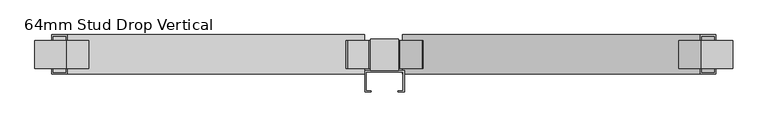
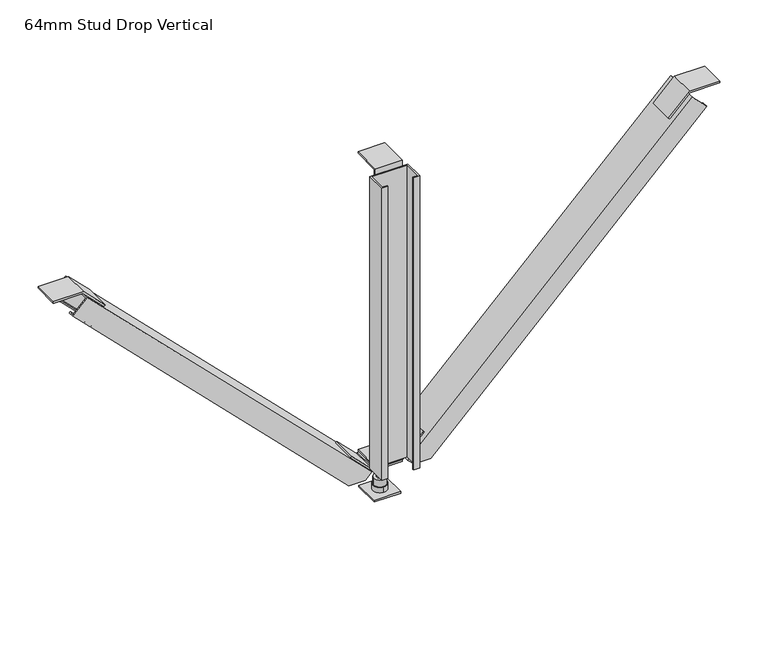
"""IFC4 building model written with IfcOpenShell, lengths in millimetres: beam geometry, Vertibrace 3-way Brace : 64mm Stud Drop Vertical."""

from ifc_helpers import new_model, si_unit, frame, origin, origin_with_axes, place, context, project, spatial, polyline, circle_curve, outline, extrude, faceted_brep, source, transform, mapped, element, save
from ifc_brep_helpers import plane_surface, cylinder_surface, advanced_brep


def beam_64mm_stud_drop_vertical_f6c59acf(model_context):
    return source(origin(), model_context, "Body", "SolidModel", [
        extrude(outline(polyline([(-23.235654, 597.0013294), (-23.235654, 548.7734408), (-26.2343246, 548.7734408), (-26.2343246, 600.0), (24.9922346, 600.0), (24.9922346, 597.0013294), (-23.235654, 597.0013294)])), frame((-22.5, 0.0, 0.0), z_axis=(1.0, 0.0, 0.0), x_axis=(0.0, 1.0, 0.0)), (0.0, 0.0, 1.0), 45.0),
        extrude(outline(polyline([(547.0013294, 513.8434194), (547.0013294, 563.8278886), (550.0, 563.8278886), (550.0, 512.6013294), (513.7773526, 476.378682), (511.6569723, 478.4990623), (547.0013294, 513.8434194)])), frame((0.0, -22.5, 0.0), z_axis=(0.0, 1.0, 0.0), x_axis=(0.0, 0.0, 1.0)), (0.0, 0.0, 1.0), 45.0),
        extrude(outline(polyline([(547.0013294, -516.535654), (511.6569723, -481.1912969), (513.7773526, -479.0709166), (550.0, -515.293564), (550.0, -566.5201232), (547.0013294, -566.5201232), (547.0013294, -516.535654)])), frame((0.0, -22.5, 0.0), z_axis=(0.0, 1.0, 0.0), x_axis=(0.0, 0.0, 1.0)), (0.0, 0.0, 1.0), 45.0),
        extrude(outline(polyline([(-23.235654, 65.6986706), (24.9922346, 65.6986706), (24.9922346, 62.7), (-26.2343246, 62.7), (-26.2343246, 113.9265592), (-23.235654, 113.9265592), (-23.235654, 65.6986706)])), frame((-22.5, 0.0, 0.0), z_axis=(1.0, 0.0, 0.0), x_axis=(0.0, 1.0, 0.0)), (0.0, 0.0, 1.0), 45.0),
        extrude(outline(polyline([(62.6986706, 24.9922346), (62.6986706, -24.9922346), (59.7, -24.9922346), (59.7, 26.2343246), (95.9226474, 62.456972), (98.0430277, 60.3365917), (62.6986706, 24.9922346)])), frame((0.0, -22.5, 0.0), z_axis=(0.0, 1.0, 0.0), x_axis=(0.0, 0.0, 1.0)), (0.0, 0.0, 1.0), 45.0),
        extrude(outline(polyline([(59.6986706, -24.9922346), (95.0430277, -60.3365917), (92.9226474, -62.456972), (56.7, -26.2343246), (56.7, 24.9922346), (59.6986706, 24.9922346), (59.6986706, -24.9922346)])), frame((0.0, -22.5, 0.0), z_axis=(0.0, 1.0, 0.0), x_axis=(0.0, 0.0, 1.0)), (0.0, 0.0, 1.0), 45.0),
        extrude(outline(polyline([(22.5, 22.5), (22.5, -22.5), (-22.5, -22.5), (-22.5, 22.5), (22.5, 22.5)])), origin_with_axes(), (0.0, 0.0, 1.0), 3.0),
        advanced_brep(
        [(-5.0, 0.0, -10.0), (5.0, 0.0, -10.0), (-5.0, 0.0, 80.0), (5.0, 0.0, 80.0), (5.0, 0.0, 3.0), (-5.0, 0.0, 3.0), (-5.0, 0.0, 77.4), (5.0, 0.0, 77.4), (-5.0, 0.0, 25.0), (5.0, 0.0, 25.0), (5.0, 0.0, 50.0), (-5.0, 0.0, 50.0), (5.0, 0.0, 65.7), (-5.0, 0.0, 65.7), (-5.0, 0.0, 56.7), (5.0, 0.0, 56.7), (-10.5, 0.0, 25.0), (10.5, 0.0, 25.0), (-10.5, 0.0, 13.0), (10.5, 0.0, 13.0), (0.0, -12.0, 13.0), (0.0, 12.0, 13.0), (3.75, 6.4951905, 77.4), (-3.75, 6.4951905, 77.4), (-7.5, 0.0, 77.4), (-3.75, -6.4951905, 77.4), (3.75, -6.4951905, 77.4), (7.5, 0.0, 77.4), (3.75, 6.4951905, 65.7), (7.5, 0.0, 65.7), (3.75, -6.4951905, 65.7), (-3.75, -6.4951905, 65.7), (-7.5, 0.0, 65.7), (-3.75, 6.4951905, 65.7), (-10.9696551, 0.0, 56.7), (-5.4848276, -9.5, 56.7), (5.4848276, -9.5, 56.7), (10.9696551, 0.0, 56.7), (5.4848276, 9.5, 56.7), (-5.4848276, 9.5, 56.7), (-10.9696551, 0.0, 50.0), (-5.4848276, 9.5, 50.0), (5.4848276, 9.5, 50.0), (10.9696551, 0.0, 50.0), (5.4848276, -9.5, 50.0), (-5.4848276, -9.5, 50.0), (0.0, -12.0, 3.0), (0.0, 12.0, 3.0)],
        [
            (0, 1, circle_curve(frame((0.0, 0.0, -10.0), z_axis=(0.0, 0.0, -1.0), x_axis=(1.0, 0.0, 0.0)), 5.0)),
            (1, 0, circle_curve(frame((0.0, 0.0, -10.0), z_axis=(0.0, 0.0, -1.0), x_axis=(1.0, 0.0, 0.0)), 5.0)),
            (2, 3, circle_curve(frame((0.0, 0.0, 80.0), z_axis=(0.0, 0.0, 1.0), x_axis=(1.0, 0.0, 0.0)), 5.0)),
            (3, 2, circle_curve(frame((0.0, 0.0, 80.0), z_axis=(0.0, 0.0, 1.0), x_axis=(1.0, 0.0, 0.0)), 5.0)),
            (1, 4),
            (4, 5, circle_curve(frame((0.0, 0.0, 3.0), z_axis=(0.0, 0.0, -1.0), x_axis=(1.0, 0.0, 0.0)), 5.0)),
            (5, 0),
            (2, 6),
            (6, 7, circle_curve(frame((0.0, 0.0, 77.4), z_axis=(0.0, 0.0, 1.0), x_axis=(1.0, 0.0, 0.0)), 5.0)),
            (7, 3),
            (8, 9, circle_curve(frame((0.0, 0.0, 25.0), z_axis=(0.0, 0.0, 1.0), x_axis=(1.0, 0.0, 0.0)), 5.0)),
            (9, 10),
            (10, 11, circle_curve(frame((0.0, 0.0, 50.0), z_axis=(0.0, 0.0, -1.0), x_axis=(1.0, 0.0, 0.0)), 5.0)),
            (11, 8),
            (12, 13, circle_curve(frame((0.0, 0.0, 65.7), z_axis=(0.0, 0.0, -1.0), x_axis=(1.0, 0.0, 0.0)), 5.0)),
            (13, 14),
            (14, 15, circle_curve(frame((0.0, 0.0, 56.7), z_axis=(0.0, 0.0, 1.0), x_axis=(1.0, 0.0, 0.0)), 5.0)),
            (15, 12),
            (5, 4, circle_curve(frame((0.0, 0.0, 3.0), z_axis=(0.0, 0.0, -1.0), x_axis=(1.0, 0.0, 0.0)), 5.0)),
            (7, 6, circle_curve(frame((0.0, 0.0, 77.4), z_axis=(0.0, 0.0, 1.0), x_axis=(1.0, 0.0, 0.0)), 5.0)),
            (9, 8, circle_curve(frame((0.0, 0.0, 25.0), z_axis=(0.0, 0.0, 1.0), x_axis=(1.0, 0.0, 0.0)), 5.0)),
            (11, 10, circle_curve(frame((0.0, 0.0, 50.0), z_axis=(0.0, 0.0, -1.0), x_axis=(1.0, 0.0, 0.0)), 5.0)),
            (13, 12, circle_curve(frame((0.0, 0.0, 65.7), z_axis=(0.0, 0.0, -1.0), x_axis=(1.0, 0.0, 0.0)), 5.0)),
            (15, 14, circle_curve(frame((0.0, 0.0, 56.7), z_axis=(0.0, 0.0, 1.0), x_axis=(1.0, 0.0, 0.0)), 5.0)),
            (16, 17, circle_curve(frame((0.0, 0.0, 25.0), z_axis=(0.0, 0.0, 1.0), x_axis=(1.0, 0.0, 0.0)), 10.5)),
            (17, 16, circle_curve(frame((0.0, 0.0, 25.0), z_axis=(0.0, 0.0, 1.0), x_axis=(1.0, 0.0, 0.0)), 10.5)),
            (16, 18),
            (18, 19, circle_curve(frame((0.0, 0.0, 13.0), z_axis=(0.0, 0.0, 1.0), x_axis=(1.0, 0.0, 0.0)), 10.5)),
            (19, 17),
            (19, 18, circle_curve(frame((0.0, 0.0, 13.0), z_axis=(0.0, 0.0, 1.0), x_axis=(1.0, 0.0, 0.0)), 10.5)),
            (20, 21, circle_curve(frame((0.0, 0.0, 13.0), z_axis=(0.0, 0.0, 1.0), x_axis=(0.0, 1.0, 0.0)), 12.0)),
            (21, 20, circle_curve(frame((0.0, 0.0, 13.0), z_axis=(0.0, 0.0, 1.0), x_axis=(0.0, 1.0, 0.0)), 12.0)),
            (22, 23),
            (23, 24),
            (24, 25),
            (25, 26),
            (26, 27),
            (27, 22),
            (28, 29),
            (29, 30),
            (30, 31),
            (31, 32),
            (32, 33),
            (33, 28),
            (22, 28),
            (33, 23),
            (32, 24),
            (31, 25),
            (30, 26),
            (29, 27),
            (34, 35),
            (35, 36),
            (36, 37),
            (37, 38),
            (38, 39),
            (39, 34),
            (40, 41),
            (41, 42),
            (42, 43),
            (43, 44),
            (44, 45),
            (45, 40),
            (34, 40),
            (45, 35),
            (44, 36),
            (43, 37),
            (42, 38),
            (41, 39),
            (46, 47, circle_curve(frame((0.0, 0.0, 3.0), z_axis=(0.0, 0.0, -1.0), x_axis=(0.0, 1.0, 0.0)), 12.0)),
            (47, 46, circle_curve(frame((0.0, 0.0, 3.0), z_axis=(0.0, 0.0, -1.0), x_axis=(0.0, 1.0, 0.0)), 12.0)),
            (47, 21),
            (20, 46),
        ],
        [
            plane_surface(frame((5.0, 0.0, -10.0), z_axis=(0.0, 0.0, -1.0), x_axis=(0.0, -1.0, 0.0))),
            plane_surface(frame((5.0, 0.0, 80.0), z_axis=(0.0, 0.0, 1.0), x_axis=(0.0, 1.0, 0.0))),
            cylinder_surface(frame((0.0, 0.0, -10.0), z_axis=(0.0, 0.0, 1.0), x_axis=(1.0, 0.0, 0.0)), 5.0),
            plane_surface(frame((10.5, 0.0, 25.0), z_axis=(0.0, 0.0, 1.0), x_axis=(0.0, 1.0, 0.0))),
            cylinder_surface(frame((0.0, 0.0, 13.0), z_axis=(0.0, 0.0, 1.0), x_axis=(1.0, 0.0, 0.0)), 10.5),
            plane_surface(frame((0.0, 12.0, 13.0), z_axis=(0.0, 0.0, 1.0), x_axis=(-1.0, 0.0, 0.0))),
            plane_surface(frame((3.75, 6.4951905, 77.4), z_axis=(0.0, 0.0, 1.0), x_axis=(-1.0, 0.0, 0.0))),
            plane_surface(frame((3.75, 6.4951905, 65.7), z_axis=(0.0, 0.0, -1.0), x_axis=(1.0, 0.0, 0.0))),
            plane_surface(frame((3.75, 6.4951905, 77.4), z_axis=(0.0, 1.0, 0.0), x_axis=(0.0, 0.0, -1.0))),
            plane_surface(frame((-3.75, 6.4951905, 77.4), z_axis=(-0.866025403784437, 0.5000000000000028, 0.0), x_axis=(0.0, 0.0, -1.0))),
            plane_surface(frame((-7.5, 0.0, 77.4), z_axis=(-0.8660254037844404, -0.4999999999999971, 0.0), x_axis=(0.0, 0.0, -1.0))),
            plane_surface(frame((-3.75, -6.4951905, 77.4), z_axis=(0.0, -1.0, 0.0), x_axis=(0.0, 0.0, -1.0))),
            plane_surface(frame((3.75, -6.4951905, 77.4), z_axis=(0.8660254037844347, -0.500000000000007, 0.0), x_axis=(0.0, 0.0, -1.0))),
            plane_surface(frame((7.5, 0.0, 77.4), z_axis=(0.8660254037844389, 0.49999999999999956, 0.0), x_axis=(0.0, 0.0, -1.0))),
            plane_surface(frame((-10.9696551, 0.0, 56.7), z_axis=(0.0, 0.0, 1.0), x_axis=(0.49999999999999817, -0.8660254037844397, 0.0))),
            plane_surface(frame((-10.9696551, 0.0, 50.0), z_axis=(0.0, 0.0, -1.0), x_axis=(-0.49999999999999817, 0.8660254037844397, 0.0))),
            plane_surface(frame((-10.9696551, 0.0, 56.7), z_axis=(-0.8660254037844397, -0.49999999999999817, 0.0), x_axis=(0.0, 0.0, -1.0))),
            plane_surface(frame((-5.4848276, -9.5, 56.7), z_axis=(0.0, -1.0, 0.0), x_axis=(0.0, 0.0, -1.0))),
            plane_surface(frame((5.4848276, -9.5, 56.7), z_axis=(0.8660254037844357, -0.5000000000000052, 0.0), x_axis=(0.0, 0.0, -1.0))),
            plane_surface(frame((10.9696551, 0.0, 56.7), z_axis=(0.8660254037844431, 0.49999999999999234, 0.0), x_axis=(0.0, 0.0, -1.0))),
            plane_surface(frame((5.4848276, 9.5, 56.7), z_axis=(0.0, 1.0, 0.0), x_axis=(0.0, 0.0, -1.0))),
            plane_surface(frame((-5.4848276, 9.5, 56.7), z_axis=(-0.866025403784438, 0.5000000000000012, 0.0), x_axis=(0.0, 0.0, -1.0))),
            plane_surface(frame((0.0, 12.0, 3.0), z_axis=(0.0, 0.0, -1.0), x_axis=(1.0, 0.0, 0.0))),
            cylinder_surface(frame((0.0, 0.0, 3.0), z_axis=(0.0, 0.0, 1.0), x_axis=(0.0, 1.0, 0.0)), 12.0),
        ],
        [
            (0, [[1, 2]]),
            (1, [[3, 4]]),
            (2, [[-2, 5, 6, 7]]),
            (2, [[-3, 8, 9, 10]]),
            (2, [[11, 12, 13, 14]]),
            (2, [[15, 16, 17, 18]]),
            (2, [[-1, -7, 19, -5]]),
            (2, [[-4, -10, 20, -8]]),
            (2, [[21, -14, 22, -12]]),
            (2, [[23, -18, 24, -16]]),
            (3, [[25, 26], [-11, -21]]),
            (4, [[-25, 27, 28, 29]]),
            (4, [[-26, -29, 30, -27]]),
            (5, [[31, 32], [-28, -30]]),
            (6, [[33, 34, 35, 36, 37, 38], [-9, -20]]),
            (7, [[39, 40, 41, 42, 43, 44], [-15, -23]]),
            (8, [[-33, 45, -44, 46]]),
            (9, [[-34, -46, -43, 47]]),
            (10, [[-35, -47, -42, 48]]),
            (11, [[-36, -48, -41, 49]]),
            (12, [[-37, -49, -40, 50]]),
            (13, [[-38, -50, -39, -45]]),
            (14, [[51, 52, 53, 54, 55, 56], [-17, -24]]),
            (15, [[57, 58, 59, 60, 61, 62], [-13, -22]]),
            (16, [[-51, 63, -62, 64]]),
            (17, [[-52, -64, -61, 65]]),
            (18, [[-53, -65, -60, 66]]),
            (19, [[-54, -66, -59, 67]]),
            (20, [[-55, -67, -58, 68]]),
            (21, [[-56, -68, -57, -63]]),
            (22, [[69, 70], [-6, -19]]),
            (23, [[-70, 71, -31, 72]]),
            (23, [[-69, -72, -32, -71]]),
        ],
    ),
        extrude(outline(polyline([(32.0, -26.2343246), (32.0, -61.2343246), (22.0, -61.2343246), (22.0, -59.2343246), (30.0, -59.2343246), (30.0, -28.2343246), (-30.0, -28.2343246), (-30.0, -59.2343246), (-22.0, -59.2343246), (-22.0, -61.2343246), (-32.0, -61.2343246), (-32.0, -26.2343246), (32.0, -26.2343246)])), frame((0.0, 0.0, 65.7), z_axis=(0.0, 0.0, 1.0), x_axis=(1.0, 0.0, 0.0)), (0.0, 0.0, 1.0), 524.3),
        faceted_brep([(39.9343246, 30.0, 52.0), (39.9343246, 32.0, 52.0), (68.0317993, 32.0, 52.0), (68.0317993, 22.0, 52.0), (65.2033722, 22.0, 52.0), (65.2033722, 30.0, 52.0), (39.9343246, -32.0, 52.0), (39.9343246, -30.0, 52.0), (65.2033722, -30.0, 52.0), (65.2033722, -22.0, 52.0), (68.0317993, -22.0, 52.0), (68.0317993, -32.0, 52.0), (30.6485382, 30.0, 61.2857864), (30.6485382, -30.0, 61.2857864), (29.2343246, -32.0, 62.7), (29.2343246, 32.0, 62.7), (511.5343246, 32.0, 545.0), (511.5343246, -32.0, 545.0), (536.283062, -32.0, 520.2512627), (536.283062, -22.0, 520.2512627), (534.8688484, -22.0, 521.6654762), (534.8688484, -30.0, 521.6654762), (512.9485382, -30.0, 543.5857864), (512.9485382, 30.0, 543.5857864), (534.8688484, 30.0, 521.6654762), (534.8688484, 22.0, 521.6654762), (536.283062, 22.0, 520.2512627), (536.283062, 32.0, 520.2512627)], [[[0, 1, 2, 3, 4, 5]], [[6, 7, 8, 9, 10, 11]], [[12, 13, 7, 6, 14, 15, 1, 0]], [[16, 17, 18, 19, 20, 21, 22, 23, 24, 25, 26, 27]], [[16, 27, 2, 1, 15]], [[27, 26, 3, 2]], [[26, 25, 4, 3]], [[25, 24, 5, 4]], [[24, 23, 12, 0, 5]], [[13, 12, 23, 22]], [[22, 21, 8, 7, 13]], [[21, 20, 9, 8]], [[20, 19, 10, 9]], [[19, 18, 11, 10]], [[18, 17, 14, 6, 11]], [[15, 14, 17, 16]]]),
        faceted_brep([(-33.9485382, -30.0, 61.5857864), (-33.9485382, 30.0, 61.5857864), (-43.5343246, 30.0, 52.0), (-43.5343246, 32.0, 52.0), (-32.5343246, 32.0, 63.0), (-32.5343246, -32.0, 63.0), (-43.5343246, -32.0, 52.0), (-43.5343246, -30.0, 52.0), (-514.5343246, -32.0, 545.0), (-514.5343246, 32.0, 545.0), (-539.283062, 32.0, 520.2512627), (-539.283062, 22.0, 520.2512627), (-537.8688484, 22.0, 521.6654762), (-537.8688484, 30.0, 521.6654762), (-515.9485382, 30.0, 543.5857864), (-515.9485382, -30.0, 543.5857864), (-537.8688484, -30.0, 521.6654762), (-537.8688484, -22.0, 521.6654762), (-539.283062, -22.0, 520.2512627), (-539.283062, -32.0, 520.2512627), (-71.0317993, -32.0, 52.0), (-71.0317993, -22.0, 52.0), (-71.0317993, 32.0, 52.0), (-68.2033722, 30.0, 52.0), (-68.2033722, 22.0, 52.0), (-71.0317993, 22.0, 52.0), (-68.2033722, -22.0, 52.0), (-68.2033722, -30.0, 52.0)], [[[0, 1, 2, 3, 4, 5, 6, 7]], [[8, 9, 10, 11, 12, 13, 14, 15, 16, 17, 18, 19]], [[8, 19, 20, 6, 5]], [[19, 18, 21, 20]], [[10, 9, 4, 3, 22]], [[5, 4, 9, 8]], [[3, 2, 23, 24, 25, 22]], [[7, 6, 20, 21, 26, 27]], [[18, 17, 26, 21]], [[17, 16, 27, 26]], [[16, 15, 0, 7, 27]], [[1, 0, 15, 14]], [[14, 13, 23, 2, 1]], [[13, 12, 24, 23]], [[12, 11, 25, 24]], [[11, 10, 22, 25]]]),
    ])


if __name__ == "__main__":
    model = new_model("IFC4")
    model_context = context("Model", 3, world=origin())
    ifc_project = project(units=[si_unit("LENGTHUNIT", "METRE", prefix="MILLI")], contexts=[model_context])
    site = spatial("IfcSite", under=ifc_project)
    building = spatial("IfcBuilding", under=site)
    placement = place(None, origin())
    beam_64mm_stud_drop_vertical_shape = beam_64mm_stud_drop_vertical_f6c59acf(model_context)
    element("IfcBeam", 1, ObjectType="Vertibrace 3-way Brace : 64mm Stud Drop Vertical", at=placement, inside=building, context=model_context, shape_type="MappedRepresentation", body=[
        mapped(beam_64mm_stud_drop_vertical_shape, transform((0.0, 0.0, 0.0), x_axis=(1.0, 0.0, 0.0), y_axis=(0.0, 1.0, 0.0), z_axis=(0.0, 0.0, 1.0))),
    ])
    save(model, "model.ifc")
